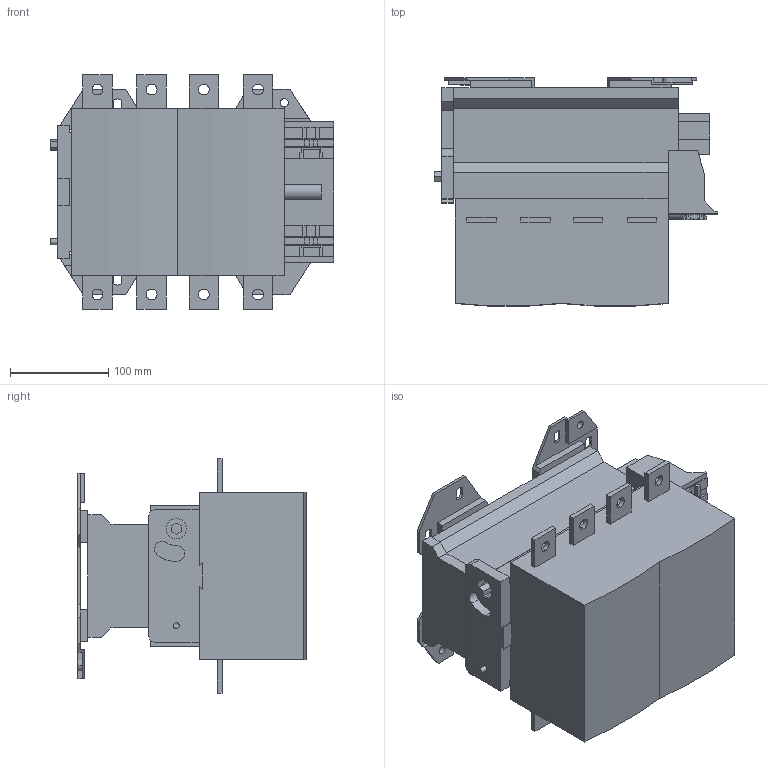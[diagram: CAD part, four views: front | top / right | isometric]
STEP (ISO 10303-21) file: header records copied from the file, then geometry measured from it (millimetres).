
FILE_DESCRIPTION((''),'2;1');
FILE_NAME('LC1F5004P7','2018-02-06T',('SESA468396'),('Schneider-Electric'),'PRO/ENGINEER BY PARAMETRIC TECHNOLOGY CORPORATION, 2015440','PRO/ENGINEER BY PARAMETRIC TECHNOLOGY CORPORATION, 2015440','');
FILE_SCHEMA(('CONFIG_CONTROL_DESIGN'));
Length unit declared in the file: millimetre
Products named in the file (1): LC1F5004P7
Bounding box: 288 x 231.67 x 238 mm (x, y, z)
Volume: 7508797.9 mm3; surface area: 360547.3 mm2
Topology: 1 solids, 1 shells, 392 faces, 1063 edges, 690 vertices
Faces by surface type: plane 331, cylinder 61
Entity records: 12239 total; most frequent: CARTESIAN_POINT 2151, ORIENTED_EDGE 2126, DIRECTION 1965, EDGE_CURVE 1063, VECTOR 941, LINE 941, VERTEX_POINT 690, AXIS2_PLACEMENT_3D 512
